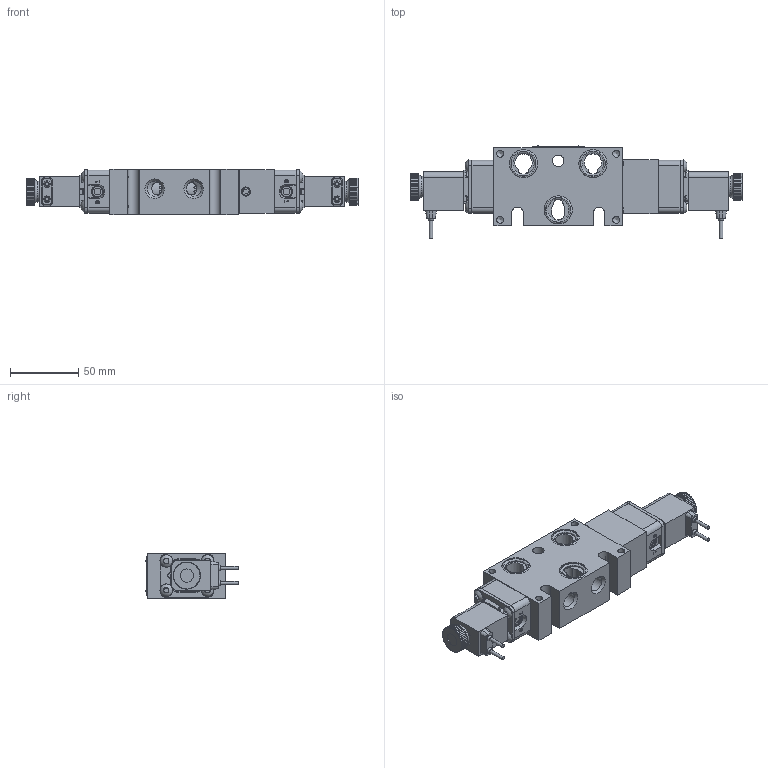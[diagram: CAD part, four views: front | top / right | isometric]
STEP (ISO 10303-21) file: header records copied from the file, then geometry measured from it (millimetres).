
FILE_DESCRIPTION(/* description */ (''),/* implementation_level */ '2;1');
FILE_NAME(/* name */ 'EBSS2MLQZ.stp',/* time_stamp */ '2026-10-01T09:01:58-04:00',/* author */ ('rmckenna'),/* organization */ (''),/* preprocessor_version */ 'ST-DEVELOPER v20.2',/* originating_system */ 'Autodesk Inventor 2027',/* authorisation */ '');
FILE_SCHEMA (('AUTOMOTIVE_DESIGN { 1 0 10303 214 3 1 1 }'));
Products named in the file (1): Part21
Bounding box: 242.92 x 67.41 x 33.32 mm (x, y, z)
Volume: 239758.9 mm3; surface area: 92137.8 mm2
Topology: 3 solids, 28 shells, 2179 faces, 5482 edges, 3520 vertices
Faces by surface type: plane 1061, cylinder 656, cone 241, torus 141, bspline 70, sphere 10
Full cylindrical faces by diameter (mm): 1.3 x2, 1.397 x2, 1.5 x2, 2.032 x8, 2.07 x2, 2.261 x2, 2.35 x8, 2.54 x4, 2.778 x2, 2.8 x2, 2.819 x2, 3 x8, 3.048 x3, 3.175 x1, 3.353 x1, 3.4 x2, 3.683 x10, 4.191 x4, 4.826 x8, 4.953 x2, 4.978 x1, 5.15 x8, 5.156 x16, 5.159 x4, 5.5 x2, 5.944 x1, 6.553 x2, 7.315 x2, 8 x4, 8.052 x2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
Entity records: 71623 total; most frequent: CARTESIAN_POINT 16599, DIRECTION 11084, ORIENTED_EDGE 10922, EDGE_CURVE 5461, AXIS2_PLACEMENT_3D 4137, VERTEX_POINT 3514, LINE 2810, VECTOR 2810
